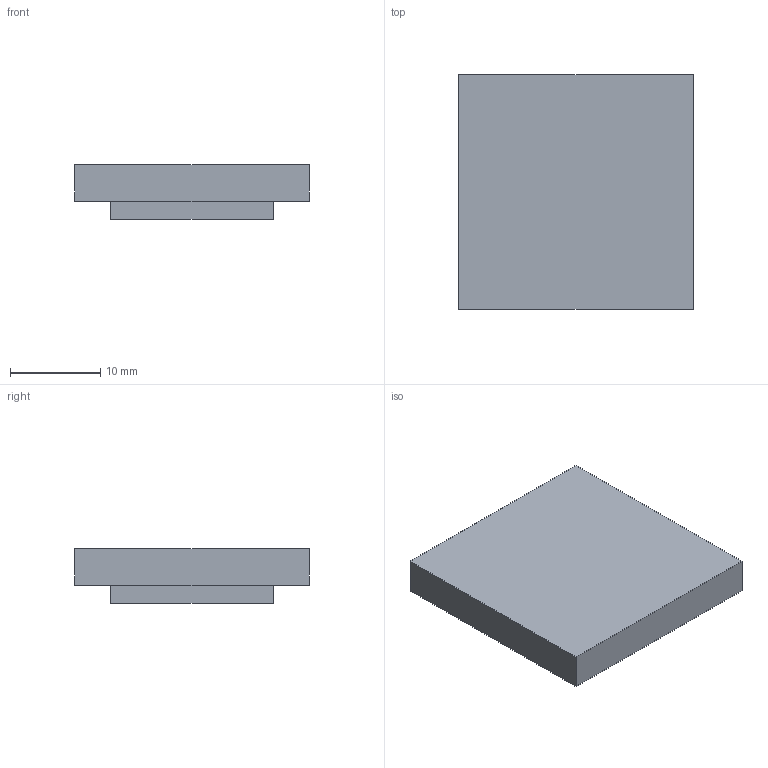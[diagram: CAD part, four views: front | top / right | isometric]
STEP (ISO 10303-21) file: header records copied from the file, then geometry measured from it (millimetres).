
FILE_DESCRIPTION(('Open CASCADE Model'),'2;1');
FILE_NAME('gps_patch','2026-08-12T02:42:46',('Author'),('Open CASCADE'), 'Open CASCADE STEP processor 7.9','build123d','Unknown');
FILE_SCHEMA(('AUTOMOTIVE_DESIGN { 1 0 10303 214 1 1 1 1 }'));
Length unit declared in the file: millimetre
Products named in the file (3): gps_patch; COMPOUND
Assembly tree (2 placements, depth 2):
  gps_patch
    COMPOUND
    COMPOUND
Bounding box: 26 x 26 x 6 mm (x, y, z)
Volume: 3352 mm3; surface area: 2560 mm2
Topology: 2 solids, 2 shells, 12 faces, 24 edges, 16 vertices
Faces by surface type: plane 12
Entity records: 664 total; most frequent: CARTESIAN_POINT 103, DIRECTION 102, LINE 72, VECTOR 72, ORIENTED_EDGE 48, PCURVE 48, DEFINITIONAL_REPRESENTATION 48, EDGE_CURVE 24
